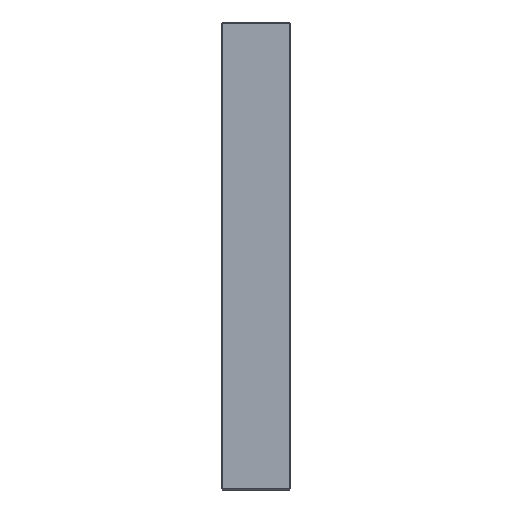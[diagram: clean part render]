
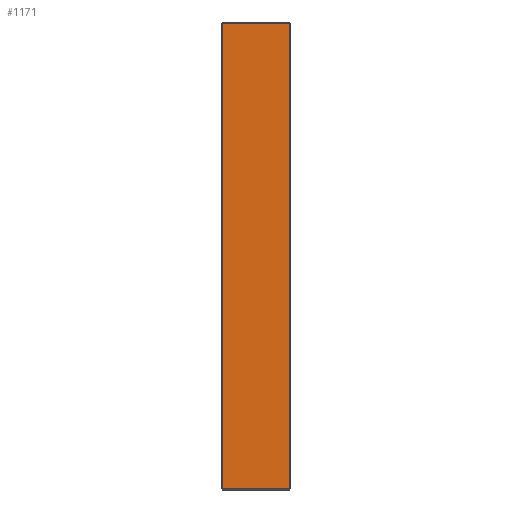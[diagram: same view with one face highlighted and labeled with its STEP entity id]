
A CAD part, left-side view. The second image highlights one B-rep face of the part: STEP entity #1171.
In plain terms, the highlighted planar face has unit normal (-1, 0, 0).
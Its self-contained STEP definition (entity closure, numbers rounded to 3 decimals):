
#18 = FACE_OUTER_BOUND ( 'NONE', #818, .T. ) ;
#49 = VECTOR ( 'NONE', #2622, 1000. ) ;
#101 = LINE ( 'NONE', #2384, #49 ) ;
#127 = VECTOR ( 'NONE', #1569, 1000. ) ;
#279 = PLANE ( 'NONE',  #1983 ) ;
#483 = VECTOR ( 'NONE', #1768, 1000. ) ;
#673 = CARTESIAN_POINT ( 'NONE',  ( -148., 65., 222. ) ) ;
#714 = LINE ( 'NONE', #1790, #483 ) ;
#818 = EDGE_LOOP ( 'NONE', ( #1860, #1890, #1921, #1924 ) ) ;
#879 = CARTESIAN_POINT ( 'NONE',  ( -148., 66., 223. ) ) ;
#1018 = VERTEX_POINT ( 'NONE', #673 ) ;
#1171 = ADVANCED_FACE ( 'NONE', ( #18 ), #279, .F. ) ;
#1206 = VERTEX_POINT ( 'NONE', #2604 ) ;
#1225 = CARTESIAN_POINT ( 'NONE',  ( -148., 66., -222. ) ) ;
#1569 = DIRECTION ( 'NONE',  ( 0., -1., 0. ) ) ;
#1606 = DIRECTION ( 'NONE',  ( 1., 0., 0. ) ) ;
#1613 = DIRECTION ( 'NONE',  ( 0., 0., -1. ) ) ;
#1768 = DIRECTION ( 'NONE',  ( 0., 0., 1. ) ) ;
#1773 = EDGE_CURVE ( 'NONE', #2753, #2428, #714, .T. ) ;
#1781 = CARTESIAN_POINT ( 'NONE',  ( -148., 66., 222. ) ) ;
#1790 = CARTESIAN_POINT ( 'NONE',  ( -148., 1., 223. ) ) ;
#1799 = DIRECTION ( 'NONE',  ( 0., 1., 0. ) ) ;
#1860 = ORIENTED_EDGE ( 'NONE', *, *, #2081, .T. ) ;
#1887 = VECTOR ( 'NONE', #1799, 1000. ) ;
#1890 = ORIENTED_EDGE ( 'NONE', *, *, #1929, .T. ) ;
#1921 = ORIENTED_EDGE ( 'NONE', *, *, #2065, .T. ) ;
#1923 = LINE ( 'NONE', #1781, #1887 ) ;
#1924 = ORIENTED_EDGE ( 'NONE', *, *, #1773, .T. ) ;
#1929 = EDGE_CURVE ( 'NONE', #1018, #1206, #101, .T. ) ;
#1983 = AXIS2_PLACEMENT_3D ( 'NONE', #879, #1606, #1613 ) ;
#2065 = EDGE_CURVE ( 'NONE', #1206, #2753, #2200, .T. ) ;
#2081 = EDGE_CURVE ( 'NONE', #2428, #1018, #1923, .T. ) ;
#2159 = CARTESIAN_POINT ( 'NONE',  ( -148., 1., 222. ) ) ;
#2200 = LINE ( 'NONE', #1225, #127 ) ;
#2384 = CARTESIAN_POINT ( 'NONE',  ( -148., 65., 223. ) ) ;
#2428 = VERTEX_POINT ( 'NONE', #2159 ) ;
#2604 = CARTESIAN_POINT ( 'NONE',  ( -148., 65., -222. ) ) ;
#2622 = DIRECTION ( 'NONE',  ( 0., 0., -1. ) ) ;
#2655 = CARTESIAN_POINT ( 'NONE',  ( -148., 1., -222. ) ) ;
#2753 = VERTEX_POINT ( 'NONE', #2655 ) ;
